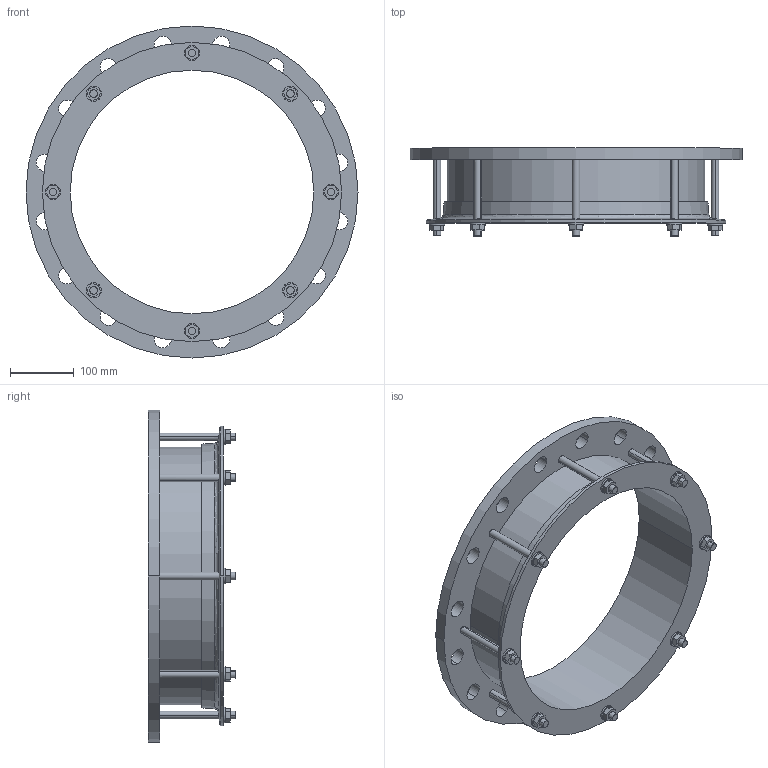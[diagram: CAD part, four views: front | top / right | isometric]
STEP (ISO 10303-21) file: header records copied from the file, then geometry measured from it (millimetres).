
FILE_DESCRIPTION((''),'2;1');
FILE_NAME('378X350PN16','2019-01-16T',('mfairey'),('Glynwed Pipe Systems'),'CREO PARAMETRIC BY PTC INC, 2016130','CREO PARAMETRIC BY PTC INC, 2016130','');
FILE_SCHEMA(('CONFIG_CONTROL_DESIGN'));
Length unit declared in the file: millimetre
Products named in the file (1): 378X350PN16
Bounding box: 520 x 137.45 x 520 mm (x, y, z)
Volume: 3568612.4 mm3; surface area: 616291.8 mm2
Topology: 1 solids, 1 shells, 170 faces, 446 edges, 296 vertices
Faces by surface type: cylinder 88, plane 76, cone 4, torus 2
Entity records: 5830 total; most frequent: CARTESIAN_POINT 1384, DIRECTION 924, ORIENTED_EDGE 892, EDGE_CURVE 446, AXIS2_PLACEMENT_3D 344, VERTEX_POINT 296, EDGE_LOOP 238, VECTOR 236
